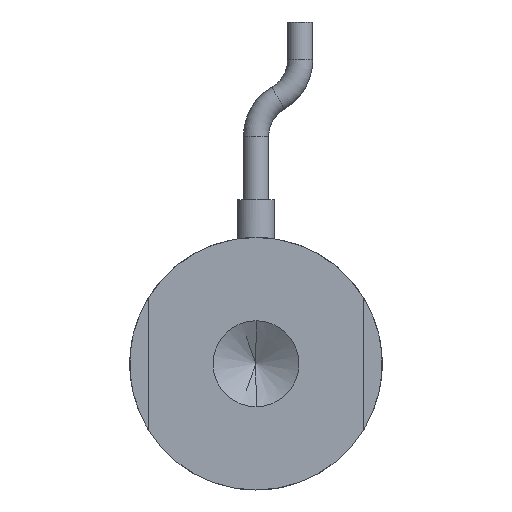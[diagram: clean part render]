
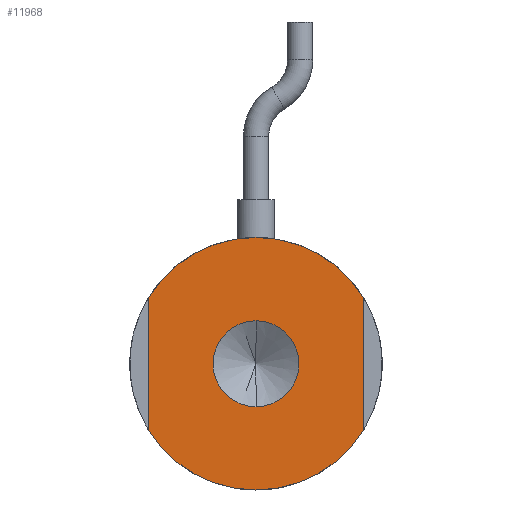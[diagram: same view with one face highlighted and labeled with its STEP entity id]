
A CAD part, front view. The second image highlights one B-rep face of the part: STEP entity #11968.
In plain terms, the highlighted planar face has unit normal (0, -1, 0).
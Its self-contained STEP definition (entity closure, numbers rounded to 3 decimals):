
#216 = CIRCLE ( 'NONE', #2408, 10. ) ;
#319 = DIRECTION ( 'NONE',  ( 0., -1., 0. ) ) ;
#362 = VERTEX_POINT ( 'NONE', #10828 ) ;
#800 = EDGE_CURVE ( 'NONE', #39549, #25561, #216, .T. ) ;
#846 = DIRECTION ( 'NONE',  ( 0., 0., 1. ) ) ;
#2345 = AXIS2_PLACEMENT_3D ( 'NONE', #10517, #34550, #13979 ) ;
#2408 = AXIS2_PLACEMENT_3D ( 'NONE', #7331, #7378, #7669 ) ;
#4871 = CARTESIAN_POINT ( 'NONE',  ( -8.5, 0., 0. ) ) ;
#4920 = EDGE_CURVE ( 'NONE', #18542, #39549, #24902, .T. ) ;
#6701 = PLANE ( 'NONE',  #39938 ) ;
#6709 = CARTESIAN_POINT ( 'NONE',  ( -8.5, 0., 5.268 ) ) ;
#7157 = AXIS2_PLACEMENT_3D ( 'NONE', #9639, #33681, #13122 ) ;
#7236 = CIRCLE ( 'NONE', #25103, 3.4 ) ;
#7331 = CARTESIAN_POINT ( 'NONE',  ( 0., 0., 0. ) ) ;
#7378 = DIRECTION ( 'NONE',  ( 0., 1., 0. ) ) ;
#7669 = DIRECTION ( 'NONE',  ( 0., 0., 1. ) ) ;
#8094 = CARTESIAN_POINT ( 'NONE',  ( 0., 0., 0. ) ) ;
#8647 = VECTOR ( 'NONE', #21512, 1000. ) ;
#8961 = LINE ( 'NONE', #4871, #17048 ) ;
#9639 = CARTESIAN_POINT ( 'NONE',  ( 0., 0., 0. ) ) ;
#10177 = DIRECTION ( 'NONE',  ( 0., 0., 1. ) ) ;
#10517 = CARTESIAN_POINT ( 'NONE',  ( 0., 0., 0. ) ) ;
#10828 = CARTESIAN_POINT ( 'NONE',  ( 0., 0., -3.4 ) ) ;
#11582 = CIRCLE ( 'NONE', #7157, 10. ) ;
#11591 = DIRECTION ( 'NONE',  ( 0., 0., -1. ) ) ;
#11968 = ADVANCED_FACE ( 'NONE', ( #29594, #39842 ), #6701, .F. ) ;
#12126 = VERTEX_POINT ( 'NONE', #21485 ) ;
#13122 = DIRECTION ( 'NONE',  ( 0., 0., 1. ) ) ;
#13979 = DIRECTION ( 'NONE',  ( 0., 0., 1. ) ) ;
#16179 = CIRCLE ( 'NONE', #40660, 3.4 ) ;
#17048 = VECTOR ( 'NONE', #32380, 1000. ) ;
#18542 = VERTEX_POINT ( 'NONE', #6709 ) ;
#18944 = ORIENTED_EDGE ( 'NONE', *, *, #4920, .F. ) ;
#19295 = EDGE_CURVE ( 'NONE', #25561, #26542, #44253, .T. ) ;
#20990 = CARTESIAN_POINT ( 'NONE',  ( 0., 0., 0. ) ) ;
#21485 = CARTESIAN_POINT ( 'NONE',  ( -8.5, 0., -5.268 ) ) ;
#21499 = DIRECTION ( 'NONE',  ( 0., 1., 0. ) ) ;
#21512 = DIRECTION ( 'NONE',  ( 0., 0., -1. ) ) ;
#22229 = CARTESIAN_POINT ( 'NONE',  ( 8.5, 0., 5.268 ) ) ;
#22552 = EDGE_CURVE ( 'NONE', #43468, #362, #16179, .T. ) ;
#24443 = DIRECTION ( 'NONE',  ( 0., 0., -1. ) ) ;
#24902 = CIRCLE ( 'NONE', #29306, 10. ) ;
#25103 = AXIS2_PLACEMENT_3D ( 'NONE', #8094, #32185, #11591 ) ;
#25561 = VERTEX_POINT ( 'NONE', #22229 ) ;
#26132 = EDGE_CURVE ( 'NONE', #26622, #12126, #44658, .T. ) ;
#26542 = VERTEX_POINT ( 'NONE', #30814 ) ;
#26622 = VERTEX_POINT ( 'NONE', #38776 ) ;
#27558 = ORIENTED_EDGE ( 'NONE', *, *, #32708, .F. ) ;
#29288 = EDGE_CURVE ( 'NONE', #12126, #18542, #8961, .T. ) ;
#29306 = AXIS2_PLACEMENT_3D ( 'NONE', #42111, #21499, #846 ) ;
#29594 = FACE_BOUND ( 'NONE', #38934, .T. ) ;
#30775 = DIRECTION ( 'NONE',  ( 0., 1., 0. ) ) ;
#30814 = CARTESIAN_POINT ( 'NONE',  ( 8.5, 0., -5.268 ) ) ;
#32185 = DIRECTION ( 'NONE',  ( 0., -1., 0. ) ) ;
#32380 = DIRECTION ( 'NONE',  ( 0., 0., 1. ) ) ;
#32708 = EDGE_CURVE ( 'NONE', #26542, #26622, #11582, .T. ) ;
#33681 = DIRECTION ( 'NONE',  ( 0., 1., 0. ) ) ;
#34066 = CARTESIAN_POINT ( 'NONE',  ( 0., 0., 0. ) ) ;
#34541 = CARTESIAN_POINT ( 'NONE',  ( 0., 0., 10. ) ) ;
#34550 = DIRECTION ( 'NONE',  ( 0., 1., 0. ) ) ;
#35150 = ORIENTED_EDGE ( 'NONE', *, *, #19295, .F. ) ;
#36232 = EDGE_CURVE ( 'NONE', #362, #43468, #7236, .T. ) ;
#36739 = CARTESIAN_POINT ( 'NONE',  ( 0., 0., 3.4 ) ) ;
#38776 = CARTESIAN_POINT ( 'NONE',  ( 0., 0., -10. ) ) ;
#38934 = EDGE_LOOP ( 'NONE', ( #44154, #44629 ) ) ;
#39549 = VERTEX_POINT ( 'NONE', #34541 ) ;
#39842 = FACE_OUTER_BOUND ( 'NONE', #42439, .T. ) ;
#39938 = AXIS2_PLACEMENT_3D ( 'NONE', #34066, #30775, #10177 ) ;
#40660 = AXIS2_PLACEMENT_3D ( 'NONE', #20990, #319, #24443 ) ;
#41945 = ORIENTED_EDGE ( 'NONE', *, *, #800, .F. ) ;
#42111 = CARTESIAN_POINT ( 'NONE',  ( 0., 0., 0. ) ) ;
#42119 = CARTESIAN_POINT ( 'NONE',  ( 8.5, 0., 0. ) ) ;
#42439 = EDGE_LOOP ( 'NONE', ( #42703, #43935, #27558, #35150, #41945, #18944 ) ) ;
#42703 = ORIENTED_EDGE ( 'NONE', *, *, #29288, .F. ) ;
#43468 = VERTEX_POINT ( 'NONE', #36739 ) ;
#43935 = ORIENTED_EDGE ( 'NONE', *, *, #26132, .F. ) ;
#44154 = ORIENTED_EDGE ( 'NONE', *, *, #36232, .F. ) ;
#44253 = LINE ( 'NONE', #42119, #8647 ) ;
#44629 = ORIENTED_EDGE ( 'NONE', *, *, #22552, .F. ) ;
#44658 = CIRCLE ( 'NONE', #2345, 10. ) ;
